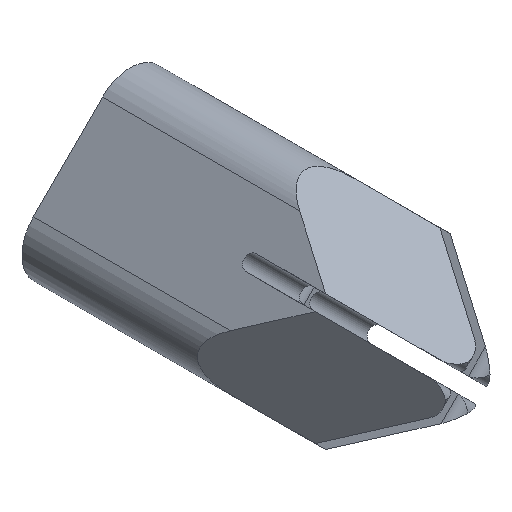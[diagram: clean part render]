
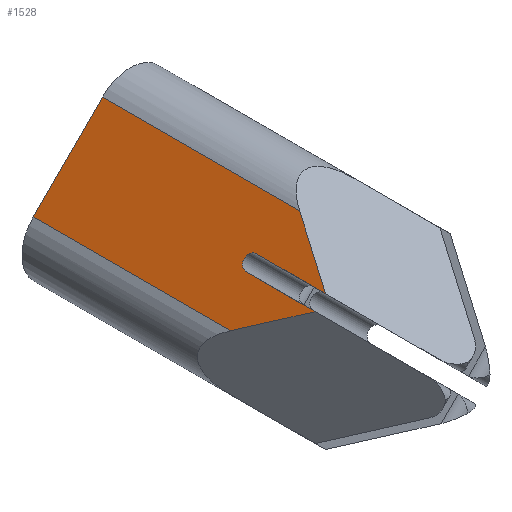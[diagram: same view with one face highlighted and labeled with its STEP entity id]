
A CAD part, isometric view. The second image highlights one B-rep face of the part: STEP entity #1528.
In plain terms, the highlighted planar face has unit normal (-0.707, 0, 0.707).
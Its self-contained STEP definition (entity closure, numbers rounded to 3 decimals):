
#16 = VERTEX_POINT ( 'NONE', #550 ) ;
#20 = AXIS2_PLACEMENT_3D ( 'NONE', #1243, #1245, #1253 ) ;
#41 = ORIENTED_EDGE ( 'NONE', *, *, #1488, .T. ) ;
#106 = VERTEX_POINT ( 'NONE', #194 ) ;
#114 = ORIENTED_EDGE ( 'NONE', *, *, #524, .F. ) ;
#194 = CARTESIAN_POINT ( 'NONE',  ( -2.828, -20.142, 9.899 ) ) ;
#237 = ORIENTED_EDGE ( 'NONE', *, *, #965, .F. ) ;
#261 = ORIENTED_EDGE ( 'NONE', *, *, #1482, .F. ) ;
#264 = CIRCLE ( 'NONE', #20, 0.75 ) ;
#289 = DIRECTION ( 'NONE',  ( -0.425, 0.799, -0.425 ) ) ;
#291 = VECTOR ( 'NONE', #1051, 1000. ) ;
#301 = ORIENTED_EDGE ( 'NONE', *, *, #1252, .T. ) ;
#302 = EDGE_CURVE ( 'NONE', #1672, #16, #264, .T. ) ;
#372 = ORIENTED_EDGE ( 'NONE', *, *, #1215, .T. ) ;
#407 = LINE ( 'NONE', #1644, #693 ) ;
#451 = LINE ( 'NONE', #1606, #735 ) ;
#471 = CARTESIAN_POINT ( 'NONE',  ( -5.834, -18.75, 6.894 ) ) ;
#482 = LINE ( 'NONE', #786, #1125 ) ;
#524 = EDGE_CURVE ( 'NONE', #106, #1209, #931, .T. ) ;
#550 = CARTESIAN_POINT ( 'NONE',  ( -5.834, -18.75, 6.894 ) ) ;
#661 = DIRECTION ( 'NONE',  ( 0., 1., 0. ) ) ;
#681 = CARTESIAN_POINT ( 'NONE',  ( -2.828, 0., 9.899 ) ) ;
#693 = VECTOR ( 'NONE', #1637, 1000. ) ;
#731 = LINE ( 'NONE', #1177, #1389 ) ;
#735 = VECTOR ( 'NONE', #1635, 1000. ) ;
#786 = CARTESIAN_POINT ( 'NONE',  ( -13.165, -14., -0.437 ) ) ;
#835 = ORIENTED_EDGE ( 'NONE', *, *, #302, .T. ) ;
#856 = VERTEX_POINT ( 'NONE', #1207 ) ;
#876 = CARTESIAN_POINT ( 'NONE',  ( -9.899, -37., 2.828 ) ) ;
#879 = VECTOR ( 'NONE', #661, 1000. ) ;
#885 = CARTESIAN_POINT ( 'NONE',  ( -6.894, -25.794, 5.834 ) ) ;
#889 = CARTESIAN_POINT ( 'NONE',  ( 5.035, -5.354, 17.762 ) ) ;
#924 = LINE ( 'NONE', #471, #1530 ) ;
#931 = LINE ( 'NONE', #889, #291 ) ;
#965 = EDGE_CURVE ( 'NONE', #1471, #1348, #482, .T. ) ;
#996 = PLANE ( 'NONE',  #1590 ) ;
#1051 = DIRECTION ( 'NONE',  ( -0.425, -0.799, -0.425 ) ) ;
#1097 = EDGE_LOOP ( 'NONE', ( #114, #1397, #372, #261, #237, #301, #835, #41 ) ) ;
#1125 = VECTOR ( 'NONE', #289, 1000. ) ;
#1152 = DIRECTION ( 'NONE',  ( 0., 1., 0. ) ) ;
#1177 = CARTESIAN_POINT ( 'NONE',  ( -2.828, -37., 9.899 ) ) ;
#1179 = FACE_OUTER_BOUND ( 'NONE', #1097, .T. ) ;
#1191 = VERTEX_POINT ( 'NONE', #681 ) ;
#1192 = CARTESIAN_POINT ( 'NONE',  ( -6.894, -18.75, 5.834 ) ) ;
#1195 = DIRECTION ( 'NONE',  ( -0.707, 0., -0.707 ) ) ;
#1207 = CARTESIAN_POINT ( 'NONE',  ( -9.899, 0., 2.828 ) ) ;
#1209 = VERTEX_POINT ( 'NONE', #1594 ) ;
#1215 = EDGE_CURVE ( 'NONE', #1191, #856, #451, .T. ) ;
#1224 = LINE ( 'NONE', #876, #879 ) ;
#1243 = CARTESIAN_POINT ( 'NONE',  ( -6.364, -18.75, 6.364 ) ) ;
#1245 = DIRECTION ( 'NONE',  ( 0.707, 0., -0.707 ) ) ;
#1252 = EDGE_CURVE ( 'NONE', #1471, #1672, #407, .T. ) ;
#1253 = DIRECTION ( 'NONE',  ( -0.707, 0., -0.707 ) ) ;
#1258 = DIRECTION ( 'NONE',  ( 0.707, 0., -0.707 ) ) ;
#1277 = CARTESIAN_POINT ( 'NONE',  ( -9.899, -20.142, 2.828 ) ) ;
#1348 = VERTEX_POINT ( 'NONE', #1277 ) ;
#1389 = VECTOR ( 'NONE', #1152, 1000. ) ;
#1397 = ORIENTED_EDGE ( 'NONE', *, *, #1657, .T. ) ;
#1471 = VERTEX_POINT ( 'NONE', #885 ) ;
#1482 = EDGE_CURVE ( 'NONE', #1348, #856, #1224, .T. ) ;
#1488 = EDGE_CURVE ( 'NONE', #16, #1209, #924, .T. ) ;
#1528 = ADVANCED_FACE ( 'NONE', ( #1179 ), #996, .F. ) ;
#1530 = VECTOR ( 'NONE', #1633, 1000. ) ;
#1590 = AXIS2_PLACEMENT_3D ( 'NONE', #1652, #1258, #1195 ) ;
#1594 = CARTESIAN_POINT ( 'NONE',  ( -5.834, -25.794, 6.894 ) ) ;
#1606 = CARTESIAN_POINT ( 'NONE',  ( 0., 0., 12.728 ) ) ;
#1633 = DIRECTION ( 'NONE',  ( 0., -1., 0. ) ) ;
#1635 = DIRECTION ( 'NONE',  ( -0.707, 0., -0.707 ) ) ;
#1637 = DIRECTION ( 'NONE',  ( 0., 1., 0. ) ) ;
#1644 = CARTESIAN_POINT ( 'NONE',  ( -6.894, -33.5, 5.834 ) ) ;
#1652 = CARTESIAN_POINT ( 'NONE',  ( 0., 0., 12.728 ) ) ;
#1657 = EDGE_CURVE ( 'NONE', #106, #1191, #731, .T. ) ;
#1672 = VERTEX_POINT ( 'NONE', #1192 ) ;
